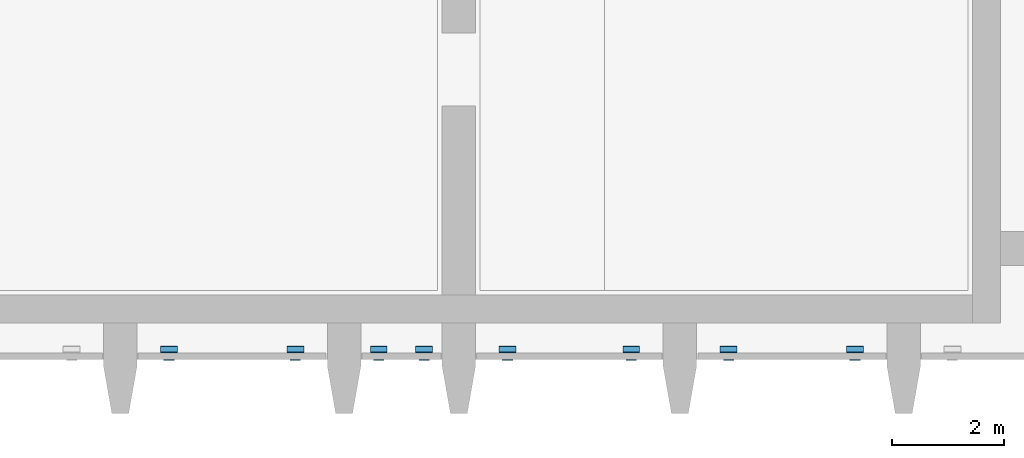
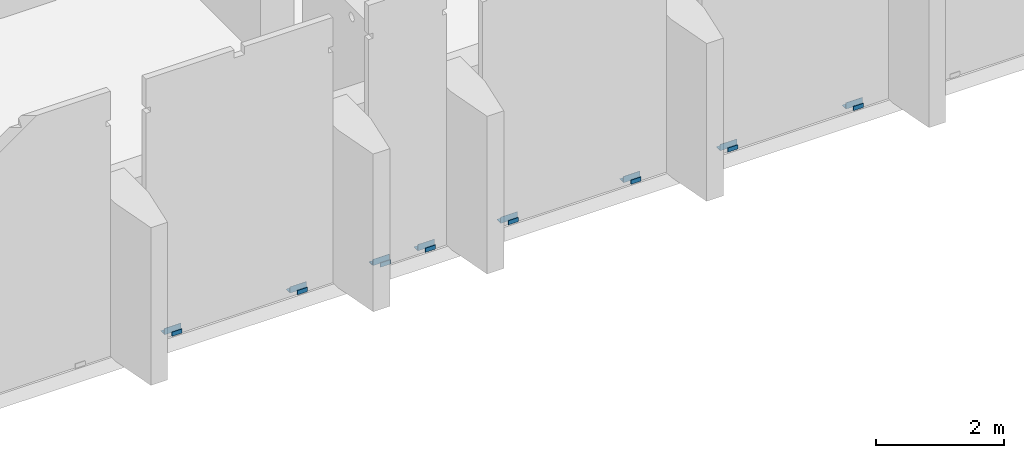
# One storey, part 16 of 31: 16 beams.
"""IFC2X3 building model written with IfcOpenShell, lengths in millimetres."""

from ifc_helpers import new_model, entity, si_unit, converted_unit, derived_unit, direction, frame, frame_2d, origin, origin_2d_with_axis, place, context, subcontext, project, spatial, polyline, circle_curve, parameter, trimmed, segment, composite_curve, rectangle, outline, extrude, source, transform, mapped, material, type_object, type_shapes, element, save


model = new_model("IFC2X3")

# Units and contexts
model_context = context("Model", 3, precision=0.01, world=origin(), true_north=direction((6.12303176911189e-17, 1.0)))
body_context = subcontext(model_context, "Body", "Model", "MODEL_VIEW")
ifc_project = project(units=[si_unit("LENGTHUNIT", "METRE", prefix="MILLI"), si_unit("AREAUNIT", "SQUARE_METRE"), si_unit("VOLUMEUNIT", "CUBIC_METRE"), converted_unit("PLANEANGLEUNIT", "DEGREE", entity("IfcRatioMeasure", 0.0174532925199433), si_unit("PLANEANGLEUNIT", "RADIAN"), dimensions=[0, 0, 0, 0, 0, 0, 0]), si_unit("MASSUNIT", "GRAM", prefix="KILO"), derived_unit("MASSDENSITYUNIT", [(si_unit("MASSUNIT", "GRAM", prefix="KILO"), 1), (si_unit("LENGTHUNIT", "METRE"), -3)]), si_unit("TIMEUNIT", "SECOND"), si_unit("FREQUENCYUNIT", "HERTZ"), si_unit("THERMODYNAMICTEMPERATUREUNIT", "DEGREE_CELSIUS"), derived_unit("THERMALTRANSMITTANCEUNIT", [(si_unit("MASSUNIT", "GRAM", prefix="KILO"), 1), (si_unit("THERMODYNAMICTEMPERATUREUNIT", "KELVIN"), -1), (si_unit("TIMEUNIT", "SECOND"), -3)]), derived_unit("VOLUMETRICFLOWRATEUNIT", [(si_unit("LENGTHUNIT", "METRE"), 3), (si_unit("TIMEUNIT", "SECOND"), -1)]), si_unit("ELECTRICCURRENTUNIT", "AMPERE"), si_unit("ELECTRICVOLTAGEUNIT", "VOLT"), si_unit("POWERUNIT", "WATT"), si_unit("FORCEUNIT", "NEWTON", prefix="KILO"), si_unit("ILLUMINANCEUNIT", "LUX"), si_unit("LUMINOUSFLUXUNIT", "LUMEN"), si_unit("LUMINOUSINTENSITYUNIT", "CANDELA"), derived_unit("USERDEFINED", [(si_unit("MASSUNIT", "GRAM", prefix="KILO"), -1), (si_unit("LENGTHUNIT", "METRE"), -2), (si_unit("TIMEUNIT", "SECOND"), 3), (si_unit("LUMINOUSFLUXUNIT", "LUMEN"), 1)]), derived_unit("LINEARVELOCITYUNIT", [(si_unit("LENGTHUNIT", "METRE"), 1), (si_unit("TIMEUNIT", "SECOND"), -1)]), si_unit("PRESSUREUNIT", "PASCAL"), derived_unit("USERDEFINED", [(si_unit("LENGTHUNIT", "METRE"), -2), (si_unit("MASSUNIT", "GRAM", prefix="KILO"), 1), (si_unit("TIMEUNIT", "SECOND"), -2)])], contexts=[model_context])

# Site, building, storey
site_placement = place(None, origin())
site = spatial("IfcSite", under=ifc_project, at=site_placement, Name="Default", CompositionType="ELEMENT")
building_placement = place(site_placement, origin())
building = spatial("IfcBuilding", under=site, at=building_placement, Name="niet gebruiken", CompositionType="ELEMENT")
storey_placement = place(building_placement, frame((0.0, 0.0, 12000.0)))
storey = spatial("IfcBuildingStorey", under=building, at=storey_placement, Name="03 derde verdieping", CompositionType="ELEMENT", Elevation=12000.0)

# Beams
ifc_material = material(Name="NLRS_h2_staal")
beam_type_1 = type_object("IfcBeamType", Name="NLRS_28.11_SF_WPB_stalen ligger hoekprofiel gelijkzijdig_gen:ligger gelijzijdig hoekprofiel LEQU_120x120x12_!", PredefinedType="BEAM")
beam_placement = place(storey_placement, frame((144730.0, 1254.0, 30.0)))
element("IfcBeam", 1, at=beam_placement, inside=storey, type_object=beam_type_1, material=ifc_material, Name="NLRS_28.11_SF_WPB_stalen ligger hoekprofiel gelijkzijdig_gen:ligger gelijzijdig hoekprofiel LEQU_120x120x12_!", ObjectType="NLRS_28.11_SF_WPB_stalen ligger hoekprofiel gelijkzijdig_gen:ligger gelijzijdig hoekprofiel LEQU_120x120x12_!", context=body_context, shape_type="SweptSolid", body=[
    extrude(outline(composite_curve([segment(polyline([(-75.5555555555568, -44.444444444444), (44.444444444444, -44.444444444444)]), True, "CONTINUOUS"), segment(polyline([(44.444444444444, -44.4444444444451), (44.4444444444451, 75.5555555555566)]), True, "CONTINUOUS"), segment(polyline([(44.4444444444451, 75.5555555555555), (40.4444444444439, 75.5555555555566)]), True, "CONTINUOUS"), segment(trimmed(circle_curve(frame_2d((40.444444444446, 69.5555555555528), x_axis=(0.0, 1.0)), 6.00000000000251), [parameter(0.0)], [parameter(89.9999999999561)], True, "PARAMETER"), True, "CONTINUOUS"), segment(polyline([(34.444444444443, 69.5555555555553), (34.4444444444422, -22.4444444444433)]), True, "CONTINUOUS"), segment(trimmed(circle_curve(frame_2d((22.4444444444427, -22.4444444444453), x_axis=(1.0, 0.0)), 11.9999999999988), [parameter(269.999999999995)], [parameter(0.0)], True, "PARAMETER"), False, "CONTINUOUS"), segment(polyline([(22.4444444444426, -34.4444444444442), (-69.5555555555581, -34.4444444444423)]), True, "CONTINUOUS"), segment(trimmed(circle_curve(frame_2d((-69.5555555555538, -40.4444444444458), x_axis=(0.0, 1.0)), 6.00000000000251), [parameter(0.0)], [parameter(89.9999999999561)], True, "PARAMETER"), True, "CONTINUOUS"), segment(polyline([(-75.5555555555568, -40.4444444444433), (-75.5555555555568, -44.444444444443)]), True, "CONTINUOUS")], self_intersect=False)), frame((0.0, 24.4444444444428, -75.5555555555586), z_axis=(1.0, 0.0, 0.0), x_axis=(0.0, 0.0, -1.0)), (0.0, 0.0, 1.0), 300.000000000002),
])
for number, where in (
    (2, (142470.0, 1254.0, 30.0)),
    (3, (154730.0, 1254.0, 30.0)),
):
    element("IfcBeam", number, at=place(storey_placement, frame(where)), inside=storey, type_object=beam_type_1, material=ifc_material, Name="NLRS_28.11_SF_WPB_stalen ligger hoekprofiel gelijkzijdig_gen:ligger gelijzijdig hoekprofiel LEQU_120x120x12_!", ObjectType="NLRS_28.11_SF_WPB_stalen ligger hoekprofiel gelijkzijdig_gen:ligger gelijzijdig hoekprofiel LEQU_120x120x12_!", context=body_context, shape_type="SweptSolid", body=[
        extrude(outline(composite_curve([segment(polyline([(-75.5555555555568, -44.444444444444), (44.444444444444, -44.444444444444)]), True, "CONTINUOUS"), segment(polyline([(44.444444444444, -44.4444444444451), (44.4444444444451, 75.5555555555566)]), True, "CONTINUOUS"), segment(polyline([(44.4444444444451, 75.5555555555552), (40.4444444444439, 75.5555555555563)]), True, "CONTINUOUS"), segment(trimmed(circle_curve(frame_2d((40.444444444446, 69.5555555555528), x_axis=(0.0, 1.0)), 6.00000000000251), [parameter(0.0)], [parameter(89.9999999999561)], True, "PARAMETER"), True, "CONTINUOUS"), segment(polyline([(34.444444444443, 69.5555555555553), (34.4444444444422, -22.4444444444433)]), True, "CONTINUOUS"), segment(trimmed(circle_curve(frame_2d((22.4444444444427, -22.4444444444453), x_axis=(1.0, 0.0)), 11.9999999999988), [parameter(269.999999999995)], [parameter(0.0)], True, "PARAMETER"), False, "CONTINUOUS"), segment(polyline([(22.4444444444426, -34.4444444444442), (-69.5555555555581, -34.4444444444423)]), True, "CONTINUOUS"), segment(trimmed(circle_curve(frame_2d((-69.5555555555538, -40.4444444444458), x_axis=(0.0, 1.0)), 6.00000000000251), [parameter(0.0)], [parameter(89.9999999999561)], True, "PARAMETER"), True, "CONTINUOUS"), segment(polyline([(-75.5555555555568, -40.4444444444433), (-75.5555555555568, -44.444444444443)]), True, "CONTINUOUS")], self_intersect=False)), frame((0.0, 24.4444444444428, -75.5555555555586), z_axis=(1.0, 0.0, 0.0), x_axis=(0.0, 0.0, -1.0)), (0.0, 0.0, 1.0), 300.000000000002),
    ])
for number, where in (
    (4, (152470.0, 1254.0, 30.0)),
    (5, (147030.0, 1254.0, 30.0)),
):
    element("IfcBeam", number, at=place(storey_placement, frame(where)), inside=storey, type_object=beam_type_1, material=ifc_material, Name="NLRS_28.11_SF_WPB_stalen ligger hoekprofiel gelijkzijdig_gen:ligger gelijzijdig hoekprofiel LEQU_120x120x12_!", ObjectType="NLRS_28.11_SF_WPB_stalen ligger hoekprofiel gelijkzijdig_gen:ligger gelijzijdig hoekprofiel LEQU_120x120x12_!", context=body_context, shape_type="SweptSolid", body=[
        extrude(outline(composite_curve([segment(polyline([(-75.5555555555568, -44.4444444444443), (44.444444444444, -44.4444444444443)]), True, "CONTINUOUS"), segment(polyline([(44.444444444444, -44.4444444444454), (44.4444444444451, 75.5555555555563)]), True, "CONTINUOUS"), segment(polyline([(44.4444444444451, 75.5555555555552), (40.4444444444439, 75.5555555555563)]), True, "CONTINUOUS"), segment(trimmed(circle_curve(frame_2d((40.444444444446, 69.5555555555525), x_axis=(0.0, 1.0)), 6.00000000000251), [parameter(0.0)], [parameter(89.9999999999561)], True, "PARAMETER"), True, "CONTINUOUS"), segment(polyline([(34.444444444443, 69.555555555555), (34.4444444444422, -22.4444444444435)]), True, "CONTINUOUS"), segment(trimmed(circle_curve(frame_2d((22.4444444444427, -22.4444444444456), x_axis=(1.0, 0.0)), 11.9999999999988), [parameter(269.999999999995)], [parameter(0.0)], True, "PARAMETER"), False, "CONTINUOUS"), segment(polyline([(22.4444444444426, -34.4444444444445), (-69.5555555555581, -34.4444444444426)]), True, "CONTINUOUS"), segment(trimmed(circle_curve(frame_2d((-69.5555555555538, -40.4444444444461), x_axis=(0.0, 1.0)), 6.00000000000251), [parameter(0.0)], [parameter(89.9999999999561)], True, "PARAMETER"), True, "CONTINUOUS"), segment(polyline([(-75.5555555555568, -40.4444444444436), (-75.5555555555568, -44.4444444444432)]), True, "CONTINUOUS")], self_intersect=False)), frame((0.0, 24.444444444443, -75.5555555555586), z_axis=(1.0, 0.0, 0.0), x_axis=(0.0, 0.0, -1.0)), (0.0, 0.0, 1.0), 300.000000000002),
    ])
for number, where in (
    (6, (146220.0, 1254.0, 30.0)),
    (7, (148520.0, 1254.0, 30.0)),
    (8, (150730.0, 1254.0, 30.0)),
):
    element("IfcBeam", number, at=place(storey_placement, frame(where)), inside=storey, type_object=beam_type_1, material=ifc_material, Name="NLRS_28.11_SF_WPB_stalen ligger hoekprofiel gelijkzijdig_gen:ligger gelijzijdig hoekprofiel LEQU_120x120x12_!", ObjectType="NLRS_28.11_SF_WPB_stalen ligger hoekprofiel gelijkzijdig_gen:ligger gelijzijdig hoekprofiel LEQU_120x120x12_!", context=body_context, shape_type="SweptSolid", body=[
        extrude(outline(composite_curve([segment(polyline([(-75.5555555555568, -44.444444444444), (44.444444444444, -44.444444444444)]), True, "CONTINUOUS"), segment(polyline([(44.444444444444, -44.4444444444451), (44.4444444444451, 75.5555555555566)]), True, "CONTINUOUS"), segment(polyline([(44.4444444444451, 75.5555555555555), (40.4444444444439, 75.5555555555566)]), True, "CONTINUOUS"), segment(trimmed(circle_curve(frame_2d((40.444444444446, 69.5555555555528), x_axis=(0.0, 1.0)), 6.00000000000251), [parameter(0.0)], [parameter(89.9999999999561)], True, "PARAMETER"), True, "CONTINUOUS"), segment(polyline([(34.444444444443, 69.5555555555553), (34.4444444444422, -22.4444444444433)]), True, "CONTINUOUS"), segment(trimmed(circle_curve(frame_2d((22.4444444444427, -22.4444444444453), x_axis=(1.0, 0.0)), 11.9999999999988), [parameter(269.999999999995)], [parameter(0.0)], True, "PARAMETER"), False, "CONTINUOUS"), segment(polyline([(22.4444444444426, -34.4444444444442), (-69.5555555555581, -34.4444444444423)]), True, "CONTINUOUS"), segment(trimmed(circle_curve(frame_2d((-69.5555555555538, -40.4444444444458), x_axis=(0.0, 1.0)), 6.00000000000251), [parameter(0.0)], [parameter(89.9999999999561)], True, "PARAMETER"), True, "CONTINUOUS"), segment(polyline([(-75.5555555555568, -40.4444444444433), (-75.5555555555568, -44.444444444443)]), True, "CONTINUOUS")], self_intersect=False)), frame((0.0, 24.4444444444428, -75.5555555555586), z_axis=(1.0, 0.0, 0.0), x_axis=(0.0, 0.0, -1.0)), (0.0, 0.0, 1.0), 300.000000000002),
    ])
beam_type_2 = type_object("IfcBeamType", Name="ligger stripstaal RECT_80x12 gedraaid_!", PredefinedType="BEAM", material=ifc_material)
shared_shape = source(origin(), body_context, "Body", "SweptSolid", [
    extrude(rectangle(XDim=179.99999999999, YDim=12.0, at=origin_2d_with_axis()), frame((0.0, 0.0, -40.0), z_axis=(0.0, 0.0, 1.0), x_axis=(-1.0, 0.0, 0.0)), (0.0, 0.0, 1.0), 80.0),
    extrude(rectangle(XDim=179.99999999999, YDim=12.0, at=origin_2d_with_axis()), frame((0.0, 0.0, -40.0), z_axis=(0.0, 0.0, 1.0), x_axis=(-1.0, 0.0, 0.0)), (0.0, 0.0, 1.0), 80.0),
])
type_shapes(beam_type_2, [shared_shape])
for number, where, z_axis, x_axis in (
    (9, (144880.0, 1108.0, -20.0), (0.0, 0.0, 1.0), (-1.0, 0.0, 0.0)),
    (10, (142620.0, 1108.0, -20.0), (0.0, 0.0, 1.0), (-1.0, 0.0, 0.0)),
    (11, (154880.0, 1108.0, -20.0), (0.0, 0.0, 1.0), (-1.0, 0.0, 0.0)),
    (12, (152620.0, 1108.0, -20.0), (0.0, 0.0, 1.0), (-1.0, 0.0, 0.0)),
    (13, (147180.0, 1108.0, -20.0), (0.0, 0.0, 1.0), (-1.0, 0.0, 0.0)),
    (14, (146370.0, 1108.0, -20.0), (0.0, 0.0, 1.0), (-1.0, 0.0, 0.0)),
    (15, (148670.0, 1108.0, -20.0), (0.0, 0.0, 1.0), (-1.0, 0.0, 0.0)),
    (16, (150880.0, 1108.0, -20.0), (0.0, 0.0, 1.0), (-1.0, 0.0, 0.0)),
):
    element("IfcBeam", number, at=place(storey_placement, frame(where, z_axis=z_axis, x_axis=x_axis)), inside=storey, type_object=beam_type_2, material=ifc_material, Name="NLRS_28.11_SF_WPB_stalen ligger stripstaal_gen:ligger stripstaal RECT_80x12 gedraaid_!", ObjectType="ligger stripstaal RECT_80x12 gedraaid_!", context=body_context, shape_type="MappedRepresentation", body=[
        mapped(shared_shape, transform((0.0, 0.0, 0.0), scale=1.0)),
    ])

save(model, "model.ifc")
